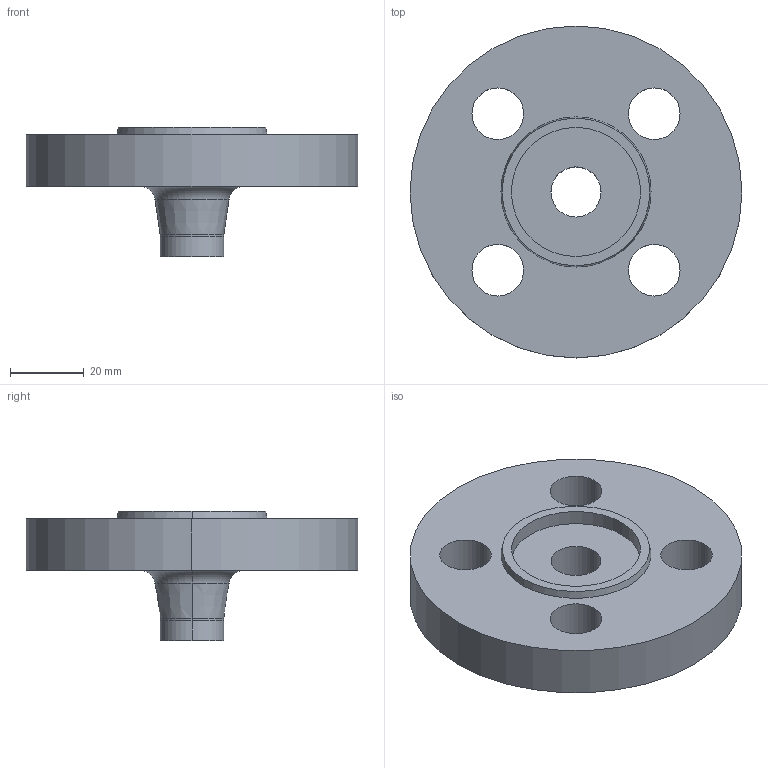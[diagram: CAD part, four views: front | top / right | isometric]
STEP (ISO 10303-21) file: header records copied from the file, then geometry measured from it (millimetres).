
FILE_DESCRIPTION (( 'STEP AP214' ), '1' );
FILE_NAME ('PN40 DN10 Type 11 - Type F Face.STEP', '2018-12-29T05:11:13', ( '' ), ( '' ), 'SwSTEP 2.0', 'SolidWorks 2019', '' );
FILE_SCHEMA (( 'AUTOMOTIVE_DESIGN' ));
Length unit declared in the file: millimetre
Products named in the file (1): PN40 DN10 Type 11 - Type F Face
Bounding box: 90 x 90 x 35 mm (x, y, z)
Volume: 79984.8 mm3; surface area: 20524.7 mm2
Topology: 1 solids, 1 shells, 29 faces, 66 edges, 42 vertices
Faces by surface type: cylinder 16, plane 5, torus 4, cone 4
Entity records: 892 total; most frequent: DIRECTION 172, CARTESIAN_POINT 138, ORIENTED_EDGE 132, AXIS2_PLACEMENT_3D 76, EDGE_CURVE 66, CIRCLE 46, VERTEX_POINT 42, EDGE_LOOP 42
